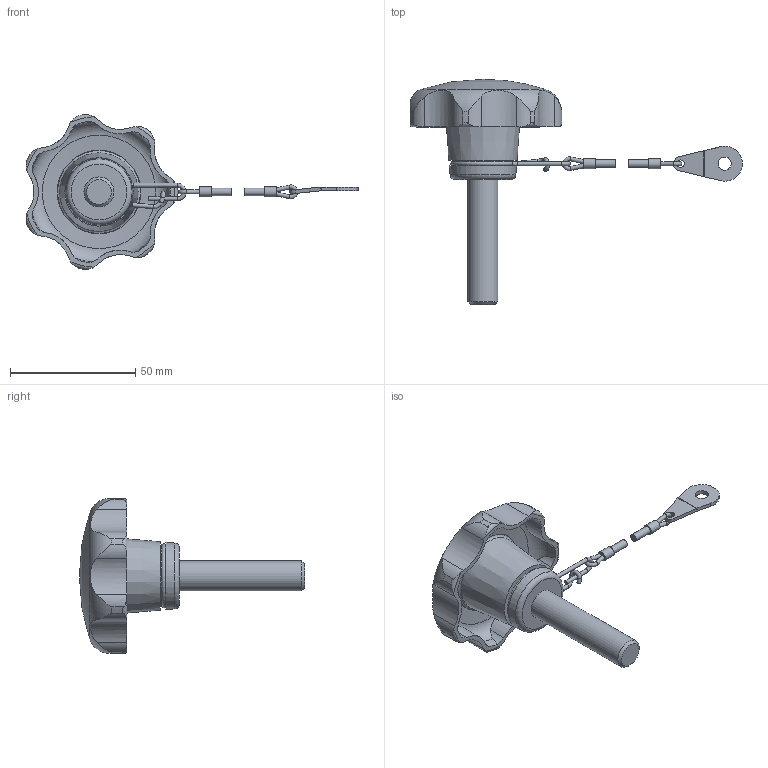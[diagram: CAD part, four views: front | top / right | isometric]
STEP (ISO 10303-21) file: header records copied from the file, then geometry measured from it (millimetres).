
FILE_DESCRIPTION( ( 'STEP AP203' ), '1' );
FILE_NAME( 'C:/Temp/Ganter_Step_05_03_2020/data/2_2/gn_6336_13/gn_6336_13_2/Star knob GN 6336.13-63-M12-50-H.stp', '2020-03-05T12:11:55', ( 'License CC BY-ND 4.0' ), ( 'CADENAS' ), ' ', 'PARTsolutions', ' ' );
FILE_SCHEMA( ( 'CONFIG_CONTROL_DESIGN' ) );
Length unit declared in the file: millimetre
Products named in the file (3): Star knob GN 6336.13-63-M12-50-H; _Star knob GN 6336.13-63-M12-50-H 6; _Star knob GN 111.2-200-14 h2
Assembly tree (2 placements, depth 2):
  Star knob GN 6336.13-63-M12-50-H
    _Star knob GN 6336.13-63-M12-50-H 6
    _Star knob GN 111.2-200-14 h2
Bounding box: 132.69 x 90 x 61.94 mm (x, y, z)
Volume: 47281.4 mm3; surface area: 15657.4 mm2
Topology: 2 solids, 2 shells, 140 faces, 380 edges, 246 vertices
Faces by surface type: cylinder 73, plane 35, torus 20, cone 11, sphere 1
Full cylindrical faces by diameter (mm): 1.6 x10, 3 x3, 4 x2, 5.3 x1, 12 x1, 22.3 x1
Entity records: 5224 total; most frequent: CARTESIAN_POINT 1831, DIRECTION 686, ORIENTED_EDGE 650, EDGE_CURVE 325, AXIS2_PLACEMENT_3D 295, VERTEX_POINT 234, EDGE_LOOP 192, FACE_OUTER_BOUND 170
